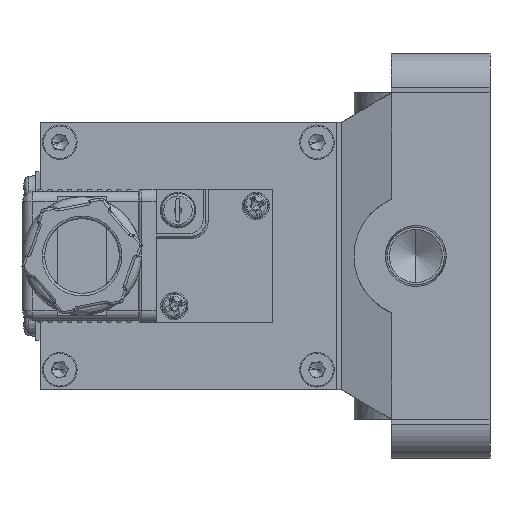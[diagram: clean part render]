
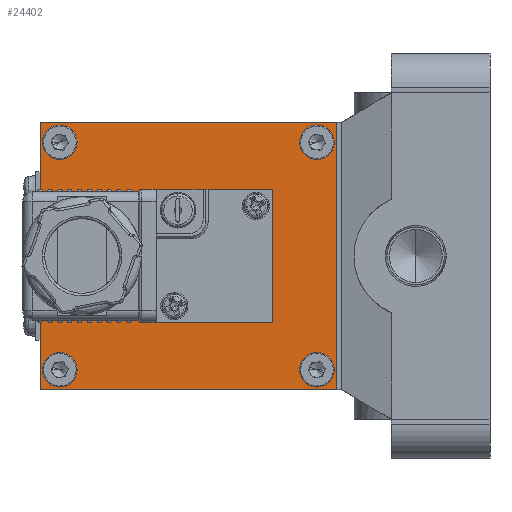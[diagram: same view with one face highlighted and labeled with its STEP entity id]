
A CAD part, left-side view. The second image highlights one B-rep face of the part: STEP entity #24402.
In plain terms, the highlighted planar face has unit normal (-1, 0, 0) as drawn and (1, 0, 0) by its records, which use the part's own axes.
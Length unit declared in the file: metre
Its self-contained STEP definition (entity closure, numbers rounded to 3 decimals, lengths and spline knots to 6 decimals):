
#448 = ORIENTED_EDGE ( 'NONE', *, *, #4434, .T. ) ;
#625 = VERTEX_POINT ( 'NONE', #13554 ) ;
#653 = EDGE_CURVE ( 'NONE', #18147, #25850, #20552, .T. ) ;
#951 = VERTEX_POINT ( 'NONE', #7460 ) ;
#958 = ORIENTED_EDGE ( 'NONE', *, *, #10918, .F. ) ;
#1112 = LINE ( 'NONE', #15014, #25599 ) ;
#1819 = FACE_BOUND ( 'NONE', #12276, .T. ) ;
#1933 = DIRECTION ( 'NONE',  ( 1., 0., 0. ) ) ;
#2380 = AXIS2_PLACEMENT_3D ( 'NONE', #13627, #25590, #11327 ) ;
#2626 = CARTESIAN_POINT ( 'NONE',  ( 0.051, 0.035, 0.023 ) ) ;
#2753 = LINE ( 'NONE', #22787, #8285 ) ;
#3281 = EDGE_CURVE ( 'NONE', #25850, #18147, #28398, .T. ) ;
#3421 = CIRCLE ( 'NONE', #29410, 0.002 ) ;
#3544 = CIRCLE ( 'NONE', #21062, 0.002 ) ;
#3729 = EDGE_LOOP ( 'NONE', ( #958, #30503 ) ) ;
#3795 = VERTEX_POINT ( 'NONE', #13960 ) ;
#3854 = CARTESIAN_POINT ( 'NONE',  ( 0.051, 0.091, 0. ) ) ;
#3932 = CIRCLE ( 'NONE', #24290, 0.002 ) ;
#4427 = EDGE_CURVE ( 'NONE', #16470, #18512, #2753, .T. ) ;
#4434 = EDGE_CURVE ( 'NONE', #25008, #16470, #14605, .T. ) ;
#4957 = DIRECTION ( 'NONE',  ( 0., 0., -1. ) ) ;
#5225 = AXIS2_PLACEMENT_3D ( 'NONE', #27343, #13107, #29701 ) ;
#7250 = CIRCLE ( 'NONE', #29391, 0.002 ) ;
#7275 = VECTOR ( 'NONE', #9432, 1. ) ;
#7424 = EDGE_CURVE ( 'NONE', #625, #3795, #12237, .T. ) ;
#7460 = CARTESIAN_POINT ( 'NONE',  ( 0.051, 0.087, -0.025 ) ) ;
#7669 = CARTESIAN_POINT ( 'NONE',  ( 0.051, 0.031, 0.027 ) ) ;
#8076 = FACE_BOUND ( 'NONE', #19955, .T. ) ;
#8285 = VECTOR ( 'NONE', #27513, 1. ) ;
#9432 = DIRECTION ( 'NONE',  ( 0., 0., -1. ) ) ;
#9487 = VERTEX_POINT ( 'NONE', #17862 ) ;
#9603 = DIRECTION ( 'NONE',  ( 1., 0., 0. ) ) ;
#9908 = ORIENTED_EDGE ( 'NONE', *, *, #23866, .T. ) ;
#10233 = VERTEX_POINT ( 'NONE', #22036 ) ;
#10918 = EDGE_CURVE ( 'NONE', #951, #10233, #7250, .T. ) ;
#11265 = VERTEX_POINT ( 'NONE', #22733 ) ;
#11327 = DIRECTION ( 'NONE',  ( 0., 0., -1. ) ) ;
#11350 = DIRECTION ( 'NONE',  ( -1., 0., 0. ) ) ;
#11599 = ORIENTED_EDGE ( 'NONE', *, *, #29369, .T. ) ;
#11607 = ORIENTED_EDGE ( 'NONE', *, *, #25120, .T. ) ;
#12034 = CARTESIAN_POINT ( 'NONE',  ( 0.051, 0.035, 0.023 ) ) ;
#12237 = CIRCLE ( 'NONE', #5225, 0.002 ) ;
#12276 = EDGE_LOOP ( 'NONE', ( #11599, #19985 ) ) ;
#12493 = DIRECTION ( 'NONE',  ( -1., 0., 0. ) ) ;
#13107 = DIRECTION ( 'NONE',  ( -1., 0., 0. ) ) ;
#13554 = CARTESIAN_POINT ( 'NONE',  ( 0.051, 0.087, 0.025 ) ) ;
#13627 = CARTESIAN_POINT ( 'NONE',  ( 0.051, 0.031, 0.027 ) ) ;
#13634 = LINE ( 'NONE', #16535, #7275 ) ;
#13960 = CARTESIAN_POINT ( 'NONE',  ( 0.051, 0.087, 0.021 ) ) ;
#14442 = DIRECTION ( 'NONE',  ( 0., 0., -1. ) ) ;
#14605 = LINE ( 'NONE', #3854, #20252 ) ;
#15014 = CARTESIAN_POINT ( 'NONE',  ( 0.051, 0.061, -0.027 ) ) ;
#15188 = AXIS2_PLACEMENT_3D ( 'NONE', #26734, #12493, #29094 ) ;
#16031 = PLANE ( 'NONE',  #2380 ) ;
#16145 = CARTESIAN_POINT ( 'NONE',  ( 0.051, 0.087, -0.023 ) ) ;
#16238 = CARTESIAN_POINT ( 'NONE',  ( 0.051, 0.091, -0.027 ) ) ;
#16470 = VERTEX_POINT ( 'NONE', #19836 ) ;
#16535 = CARTESIAN_POINT ( 'NONE',  ( 0.051, 0.031, 0. ) ) ;
#17831 = AXIS2_PLACEMENT_3D ( 'NONE', #25612, #11350, #27958 ) ;
#17862 = CARTESIAN_POINT ( 'NONE',  ( 0.051, 0.031, -0.027 ) ) ;
#18147 = VERTEX_POINT ( 'NONE', #20381 ) ;
#18407 = EDGE_CURVE ( 'NONE', #19063, #11265, #3544, .T. ) ;
#18512 = VERTEX_POINT ( 'NONE', #7669 ) ;
#18567 = DIRECTION ( 'NONE',  ( 0., 0., -1. ) ) ;
#18716 = EDGE_LOOP ( 'NONE', ( #11607, #9908, #448, #21911 ) ) ;
#19063 = VERTEX_POINT ( 'NONE', #24421 ) ;
#19253 = DIRECTION ( 'NONE',  ( -1., 0., 0. ) ) ;
#19493 = ORIENTED_EDGE ( 'NONE', *, *, #18407, .T. ) ;
#19836 = CARTESIAN_POINT ( 'NONE',  ( 0.051, 0.091, 0.027 ) ) ;
#19955 = EDGE_LOOP ( 'NONE', ( #19493, #25040 ) ) ;
#19985 = ORIENTED_EDGE ( 'NONE', *, *, #7424, .T. ) ;
#20042 = FACE_OUTER_BOUND ( 'NONE', #18716, .T. ) ;
#20252 = VECTOR ( 'NONE', #29876, 1. ) ;
#20381 = CARTESIAN_POINT ( 'NONE',  ( 0.051, 0.035, -0.025 ) ) ;
#20552 = CIRCLE ( 'NONE', #17831, 0.002 ) ;
#21055 = EDGE_LOOP ( 'NONE', ( #29452, #27290 ) ) ;
#21062 = AXIS2_PLACEMENT_3D ( 'NONE', #12034, #28636, #14442 ) ;
#21203 = EDGE_CURVE ( 'NONE', #10233, #951, #3421, .T. ) ;
#21784 = CARTESIAN_POINT ( 'NONE',  ( 0.051, 0.035, -0.021 ) ) ;
#21911 = ORIENTED_EDGE ( 'NONE', *, *, #4427, .T. ) ;
#22036 = CARTESIAN_POINT ( 'NONE',  ( 0.051, 0.087, -0.021 ) ) ;
#22474 = CIRCLE ( 'NONE', #15188, 0.002 ) ;
#22733 = CARTESIAN_POINT ( 'NONE',  ( 0.051, 0.035, 0.025 ) ) ;
#22787 = CARTESIAN_POINT ( 'NONE',  ( 0.051, 0.061, 0.027 ) ) ;
#23864 = CARTESIAN_POINT ( 'NONE',  ( 0.051, 0.087, -0.023 ) ) ;
#23866 = EDGE_CURVE ( 'NONE', #9487, #25008, #1112, .T. ) ;
#24290 = AXIS2_PLACEMENT_3D ( 'NONE', #2626, #19253, #4957 ) ;
#24402 = ADVANCED_FACE ( 'NONE', ( #8076, #27047, #1819, #26284, #20042 ), #16031, .T. ) ;
#24421 = CARTESIAN_POINT ( 'NONE',  ( 0.051, 0.035, 0.021 ) ) ;
#24495 = DIRECTION ( 'NONE',  ( 0., 1., 0. ) ) ;
#25008 = VERTEX_POINT ( 'NONE', #16238 ) ;
#25040 = ORIENTED_EDGE ( 'NONE', *, *, #26475, .T. ) ;
#25120 = EDGE_CURVE ( 'NONE', #18512, #9487, #13634, .T. ) ;
#25317 = CARTESIAN_POINT ( 'NONE',  ( 0.051, 0.035, -0.023 ) ) ;
#25358 = DIRECTION ( 'NONE',  ( -1., 0., 0. ) ) ;
#25429 = DIRECTION ( 'NONE',  ( 0., 0., -1. ) ) ;
#25590 = DIRECTION ( 'NONE',  ( 1., 0., 0. ) ) ;
#25599 = VECTOR ( 'NONE', #24495, 1. ) ;
#25612 = CARTESIAN_POINT ( 'NONE',  ( 0.051, 0.035, -0.023 ) ) ;
#25850 = VERTEX_POINT ( 'NONE', #21784 ) ;
#26233 = DIRECTION ( 'NONE',  ( 0., 0., -1. ) ) ;
#26284 = FACE_BOUND ( 'NONE', #3729, .T. ) ;
#26475 = EDGE_CURVE ( 'NONE', #11265, #19063, #3932, .T. ) ;
#26734 = CARTESIAN_POINT ( 'NONE',  ( 0.051, 0.087, 0.023 ) ) ;
#27047 = FACE_BOUND ( 'NONE', #21055, .T. ) ;
#27290 = ORIENTED_EDGE ( 'NONE', *, *, #3281, .T. ) ;
#27343 = CARTESIAN_POINT ( 'NONE',  ( 0.051, 0.087, 0.023 ) ) ;
#27513 = DIRECTION ( 'NONE',  ( 0., -1., 0. ) ) ;
#27958 = DIRECTION ( 'NONE',  ( 0., 0., -1. ) ) ;
#28398 = CIRCLE ( 'NONE', #30507, 0.002 ) ;
#28636 = DIRECTION ( 'NONE',  ( -1., 0., 0. ) ) ;
#29094 = DIRECTION ( 'NONE',  ( 0., 0., -1. ) ) ;
#29369 = EDGE_CURVE ( 'NONE', #3795, #625, #22474, .T. ) ;
#29391 = AXIS2_PLACEMENT_3D ( 'NONE', #23864, #9603, #26233 ) ;
#29410 = AXIS2_PLACEMENT_3D ( 'NONE', #16145, #1933, #18567 ) ;
#29452 = ORIENTED_EDGE ( 'NONE', *, *, #653, .T. ) ;
#29701 = DIRECTION ( 'NONE',  ( 0., 0., -1. ) ) ;
#29876 = DIRECTION ( 'NONE',  ( 0., 0., 1. ) ) ;
#30503 = ORIENTED_EDGE ( 'NONE', *, *, #21203, .F. ) ;
#30507 = AXIS2_PLACEMENT_3D ( 'NONE', #25317, #25358, #25429 ) ;
